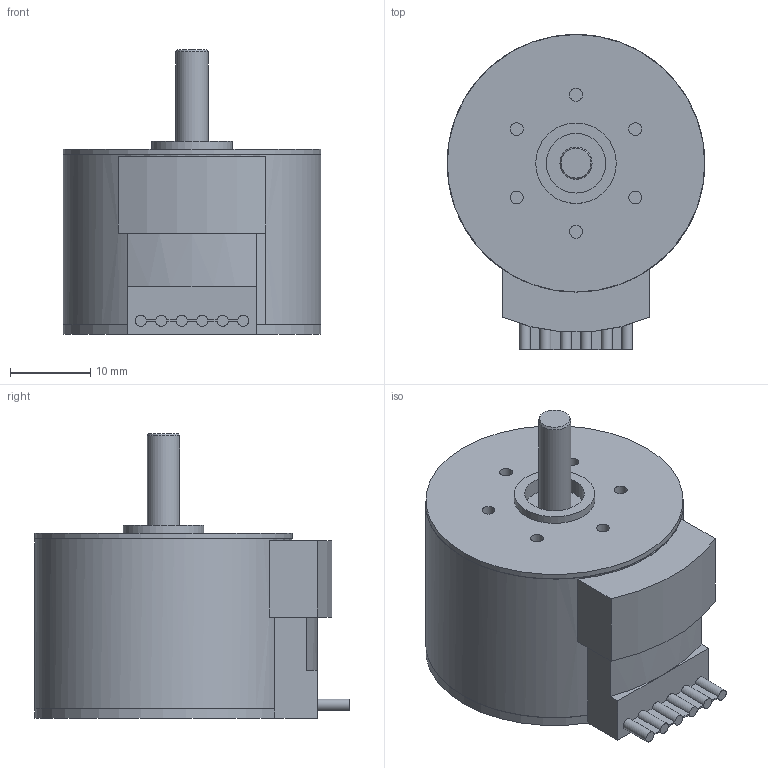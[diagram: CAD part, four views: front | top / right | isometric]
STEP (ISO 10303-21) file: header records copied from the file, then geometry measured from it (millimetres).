
FILE_DESCRIPTION(/* description */ (''),/* implementation_level */ '2;1');
FILE_NAME(/* name */ '3216.BXT_SC.stp',/* time_stamp */ '2020-03-03T13:20:33+01:00',/* author */ ('DR. FRITZ FAULHABER GmbH & Co. KG'),/* organization */ ('DR. FRITZ FAULHABER GmbH & Co. KG'),/* preprocessor_version */ 'ST-DEVELOPER v16.7',/* originating_system */ 'SIEMENS PLM Software NX 12.0',/* authorisation */ '');
FILE_SCHEMA (('AUTOMOTIVE_DESIGN { 1 0 10303 214 3 1 1 1 }'));
Length unit declared in the file: millimetre
Products named in the file (1): H00002319-A-3216.0H008
Bounding box: 32 x 39.1 x 35.4 mm (x, y, z)
Volume: 20303.5 mm3; surface area: 4821.9 mm2
Topology: 1 solids, 1 shells, 63 faces, 146 edges, 97 vertices
Faces by surface type: plane 35, cylinder 27, cone 1
Full cylindrical faces by diameter (mm): 1.6 x6, 4 x1, 7.4 x1, 10 x1, 31.999 x1, 32 x2
Entity records: 1717 total; most frequent: DIRECTION 311, CARTESIAN_POINT 284, ORIENTED_EDGE 256, EDGE_CURVE 128, AXIS2_PLACEMENT_3D 120, VERTEX_POINT 93, EDGE_LOOP 87, LINE 71
